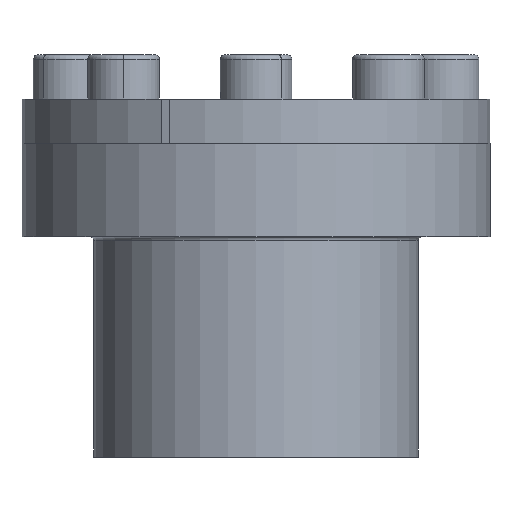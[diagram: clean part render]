
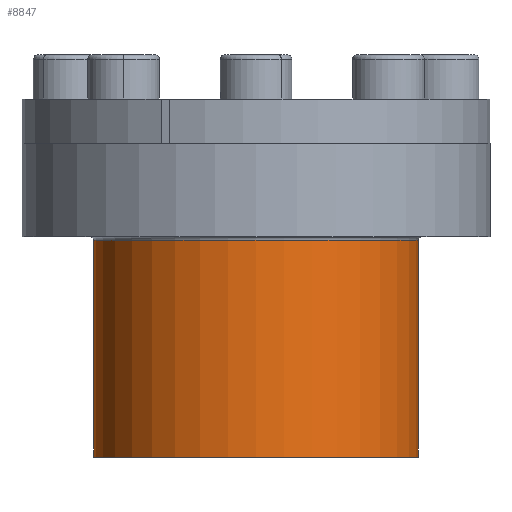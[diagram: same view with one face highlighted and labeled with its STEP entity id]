
A CAD part, front view. The second image highlights one B-rep face of the part: STEP entity #8847.
In plain terms, the highlighted cylindrical face has radius 29.5 mm (diameter 59 mm), a partial arc.
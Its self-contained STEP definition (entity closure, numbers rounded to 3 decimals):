
#585 = EDGE_CURVE ( 'NONE', #9596, #8856, #11996, .T. ) ;
#1673 = CARTESIAN_POINT ( 'NONE',  ( 0., 0., -51. ) ) ;
#1807 = EDGE_CURVE ( 'NONE', #9596, #12953, #5474, .T. ) ;
#2162 = AXIS2_PLACEMENT_3D ( 'NONE', #1673, #8695, #2714 ) ;
#2336 = ORIENTED_EDGE ( 'NONE', *, *, #10305, .F. ) ;
#2714 = DIRECTION ( 'NONE',  ( -1., 0., 0. ) ) ;
#2817 = VECTOR ( 'NONE', #12500, 1000. ) ;
#2836 = CARTESIAN_POINT ( 'NONE',  ( 29.5, 0., -51. ) ) ;
#3001 = CARTESIAN_POINT ( 'NONE',  ( -29.5, 0., -11. ) ) ;
#4007 = ORIENTED_EDGE ( 'NONE', *, *, #1807, .F. ) ;
#4346 = DIRECTION ( 'NONE',  ( -1., 0., 0. ) ) ;
#4805 = VECTOR ( 'NONE', #9323, 1000. ) ;
#5000 = DIRECTION ( 'NONE',  ( -1., 0., 0. ) ) ;
#5001 = FACE_OUTER_BOUND ( 'NONE', #8194, .T. ) ;
#5131 = AXIS2_PLACEMENT_3D ( 'NONE', #7002, #7988, #5000 ) ;
#5249 = EDGE_CURVE ( 'NONE', #8856, #9571, #9822, .T. ) ;
#5432 = AXIS2_PLACEMENT_3D ( 'NONE', #9355, #10362, #4346 ) ;
#5474 = LINE ( 'NONE', #10143, #2817 ) ;
#7002 = CARTESIAN_POINT ( 'NONE',  ( 0., 0., -11. ) ) ;
#7036 = CARTESIAN_POINT ( 'NONE',  ( -29.5, 0., -11.6 ) ) ;
#7360 = CARTESIAN_POINT ( 'NONE',  ( -29.5, 0., -51. ) ) ;
#7988 = DIRECTION ( 'NONE',  ( 0., 0., -1. ) ) ;
#8194 = EDGE_LOOP ( 'NONE', ( #4007, #9377, #11449, #2336 ) ) ;
#8359 = CARTESIAN_POINT ( 'NONE',  ( 29.5, 0., -11.6 ) ) ;
#8695 = DIRECTION ( 'NONE',  ( 0., 0., -1. ) ) ;
#8847 = ADVANCED_FACE ( 'NONE', ( #5001 ), #9078, .T. ) ;
#8856 = VERTEX_POINT ( 'NONE', #7036 ) ;
#9078 = CYLINDRICAL_SURFACE ( 'NONE', #5131, 29.5 ) ;
#9323 = DIRECTION ( 'NONE',  ( 0., 0., -1. ) ) ;
#9355 = CARTESIAN_POINT ( 'NONE',  ( 0., 0., -11.6 ) ) ;
#9377 = ORIENTED_EDGE ( 'NONE', *, *, #585, .T. ) ;
#9571 = VERTEX_POINT ( 'NONE', #7360 ) ;
#9596 = VERTEX_POINT ( 'NONE', #8359 ) ;
#9822 = LINE ( 'NONE', #3001, #4805 ) ;
#10143 = CARTESIAN_POINT ( 'NONE',  ( 29.5, 0., -11. ) ) ;
#10305 = EDGE_CURVE ( 'NONE', #12953, #9571, #11701, .T. ) ;
#10362 = DIRECTION ( 'NONE',  ( 0., 0., -1. ) ) ;
#11449 = ORIENTED_EDGE ( 'NONE', *, *, #5249, .T. ) ;
#11701 = CIRCLE ( 'NONE', #2162, 29.5 ) ;
#11996 = CIRCLE ( 'NONE', #5432, 29.5 ) ;
#12500 = DIRECTION ( 'NONE',  ( 0., 0., -1. ) ) ;
#12953 = VERTEX_POINT ( 'NONE', #2836 ) ;
